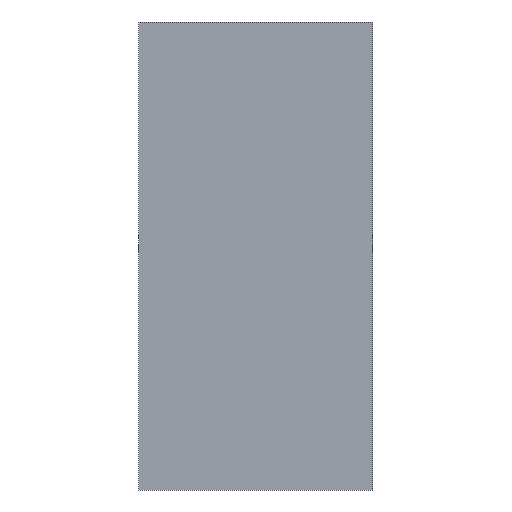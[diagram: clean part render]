
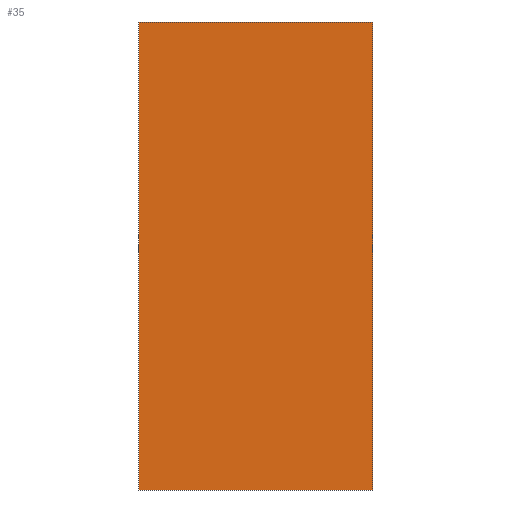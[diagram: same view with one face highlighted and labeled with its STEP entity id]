
A CAD part, left-side view. The second image highlights one B-rep face of the part: STEP entity #35.
In plain terms, the highlighted planar face has unit normal (-1, 0, 0).
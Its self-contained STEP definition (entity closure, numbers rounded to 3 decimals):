
#35 = ADVANCED_FACE('',(#36),#50,.F.);
#36 = FACE_BOUND('',#37,.F.);
#37 = EDGE_LOOP('',(#38,#73,#101,#129));
#38 = ORIENTED_EDGE('',*,*,#39,.F.);
#39 = EDGE_CURVE('',#40,#42,#44,.T.);
#40 = VERTEX_POINT('',#41);
#41 = CARTESIAN_POINT('',(-0.05,-4.,-8.));
#42 = VERTEX_POINT('',#43);
#43 = CARTESIAN_POINT('',(-0.05,-4.,8.));
#44 = SURFACE_CURVE('',#45,(#49,#61),.PCURVE_S1.);
#45 = LINE('',#46,#47);
#46 = CARTESIAN_POINT('',(-0.05,-4.,-8.));
#47 = VECTOR('',#48,1.);
#48 = DIRECTION('',(0.,0.,1.));
#49 = PCURVE('',#50,#55);
#50 = PLANE('',#51);
#51 = AXIS2_PLACEMENT_3D('',#52,#53,#54);
#52 = CARTESIAN_POINT('',(-0.05,-4.,-8.));
#53 = DIRECTION('',(1.,0.,0.));
#54 = DIRECTION('',(0.,0.,1.));
#55 = DEFINITIONAL_REPRESENTATION('',(#56),#60);
#56 = LINE('',#57,#58);
#57 = CARTESIAN_POINT('',(0.,0.));
#58 = VECTOR('',#59,1.);
#59 = DIRECTION('',(1.,0.));
#60 = ( GEOMETRIC_REPRESENTATION_CONTEXT(2) 
PARAMETRIC_REPRESENTATION_CONTEXT() REPRESENTATION_CONTEXT('2D SPACE',''
  ) );
#61 = PCURVE('',#62,#67);
#62 = PLANE('',#63);
#63 = AXIS2_PLACEMENT_3D('',#64,#65,#66);
#64 = CARTESIAN_POINT('',(-0.05,-4.,-8.));
#65 = DIRECTION('',(0.,1.,0.));
#66 = DIRECTION('',(0.,0.,1.));
#67 = DEFINITIONAL_REPRESENTATION('',(#68),#72);
#68 = LINE('',#69,#70);
#69 = CARTESIAN_POINT('',(0.,0.));
#70 = VECTOR('',#71,1.);
#71 = DIRECTION('',(1.,0.));
#72 = ( GEOMETRIC_REPRESENTATION_CONTEXT(2) 
PARAMETRIC_REPRESENTATION_CONTEXT() REPRESENTATION_CONTEXT('2D SPACE',''
  ) );
#73 = ORIENTED_EDGE('',*,*,#74,.T.);
#74 = EDGE_CURVE('',#40,#75,#77,.T.);
#75 = VERTEX_POINT('',#76);
#76 = CARTESIAN_POINT('',(-0.05,4.,-8.));
#77 = SURFACE_CURVE('',#78,(#82,#89),.PCURVE_S1.);
#78 = LINE('',#79,#80);
#79 = CARTESIAN_POINT('',(-0.05,-4.,-8.));
#80 = VECTOR('',#81,1.);
#81 = DIRECTION('',(0.,1.,0.));
#82 = PCURVE('',#50,#83);
#83 = DEFINITIONAL_REPRESENTATION('',(#84),#88);
#84 = LINE('',#85,#86);
#85 = CARTESIAN_POINT('',(0.,0.));
#86 = VECTOR('',#87,1.);
#87 = DIRECTION('',(0.,-1.));
#88 = ( GEOMETRIC_REPRESENTATION_CONTEXT(2) 
PARAMETRIC_REPRESENTATION_CONTEXT() REPRESENTATION_CONTEXT('2D SPACE',''
  ) );
#89 = PCURVE('',#90,#95);
#90 = PLANE('',#91);
#91 = AXIS2_PLACEMENT_3D('',#92,#93,#94);
#92 = CARTESIAN_POINT('',(-0.05,-4.,-8.));
#93 = DIRECTION('',(0.,0.,1.));
#94 = DIRECTION('',(1.,0.,0.));
#95 = DEFINITIONAL_REPRESENTATION('',(#96),#100);
#96 = LINE('',#97,#98);
#97 = CARTESIAN_POINT('',(0.,0.));
#98 = VECTOR('',#99,1.);
#99 = DIRECTION('',(0.,1.));
#100 = ( GEOMETRIC_REPRESENTATION_CONTEXT(2) 
PARAMETRIC_REPRESENTATION_CONTEXT() REPRESENTATION_CONTEXT('2D SPACE',''
  ) );
#101 = ORIENTED_EDGE('',*,*,#102,.T.);
#102 = EDGE_CURVE('',#75,#103,#105,.T.);
#103 = VERTEX_POINT('',#104);
#104 = CARTESIAN_POINT('',(-0.05,4.,8.));
#105 = SURFACE_CURVE('',#106,(#110,#117),.PCURVE_S1.);
#106 = LINE('',#107,#108);
#107 = CARTESIAN_POINT('',(-0.05,4.,-8.));
#108 = VECTOR('',#109,1.);
#109 = DIRECTION('',(0.,0.,1.));
#110 = PCURVE('',#50,#111);
#111 = DEFINITIONAL_REPRESENTATION('',(#112),#116);
#112 = LINE('',#113,#114);
#113 = CARTESIAN_POINT('',(0.,-8.));
#114 = VECTOR('',#115,1.);
#115 = DIRECTION('',(1.,0.));
#116 = ( GEOMETRIC_REPRESENTATION_CONTEXT(2) 
PARAMETRIC_REPRESENTATION_CONTEXT() REPRESENTATION_CONTEXT('2D SPACE',''
  ) );
#117 = PCURVE('',#118,#123);
#118 = PLANE('',#119);
#119 = AXIS2_PLACEMENT_3D('',#120,#121,#122);
#120 = CARTESIAN_POINT('',(-0.05,4.,-8.));
#121 = DIRECTION('',(0.,1.,0.));
#122 = DIRECTION('',(0.,0.,1.));
#123 = DEFINITIONAL_REPRESENTATION('',(#124),#128);
#124 = LINE('',#125,#126);
#125 = CARTESIAN_POINT('',(0.,0.));
#126 = VECTOR('',#127,1.);
#127 = DIRECTION('',(1.,0.));
#128 = ( GEOMETRIC_REPRESENTATION_CONTEXT(2) 
PARAMETRIC_REPRESENTATION_CONTEXT() REPRESENTATION_CONTEXT('2D SPACE',''
  ) );
#129 = ORIENTED_EDGE('',*,*,#130,.F.);
#130 = EDGE_CURVE('',#42,#103,#131,.T.);
#131 = SURFACE_CURVE('',#132,(#136,#143),.PCURVE_S1.);
#132 = LINE('',#133,#134);
#133 = CARTESIAN_POINT('',(-0.05,-4.,8.));
#134 = VECTOR('',#135,1.);
#135 = DIRECTION('',(0.,1.,0.));
#136 = PCURVE('',#50,#137);
#137 = DEFINITIONAL_REPRESENTATION('',(#138),#142);
#138 = LINE('',#139,#140);
#139 = CARTESIAN_POINT('',(16.,0.));
#140 = VECTOR('',#141,1.);
#141 = DIRECTION('',(0.,-1.));
#142 = ( GEOMETRIC_REPRESENTATION_CONTEXT(2) 
PARAMETRIC_REPRESENTATION_CONTEXT() REPRESENTATION_CONTEXT('2D SPACE',''
  ) );
#143 = PCURVE('',#144,#149);
#144 = PLANE('',#145);
#145 = AXIS2_PLACEMENT_3D('',#146,#147,#148);
#146 = CARTESIAN_POINT('',(-0.05,-4.,8.));
#147 = DIRECTION('',(0.,0.,1.));
#148 = DIRECTION('',(1.,0.,0.));
#149 = DEFINITIONAL_REPRESENTATION('',(#150),#154);
#150 = LINE('',#151,#152);
#151 = CARTESIAN_POINT('',(0.,0.));
#152 = VECTOR('',#153,1.);
#153 = DIRECTION('',(0.,1.));
#154 = ( GEOMETRIC_REPRESENTATION_CONTEXT(2) 
PARAMETRIC_REPRESENTATION_CONTEXT() REPRESENTATION_CONTEXT('2D SPACE',''
  ) );
